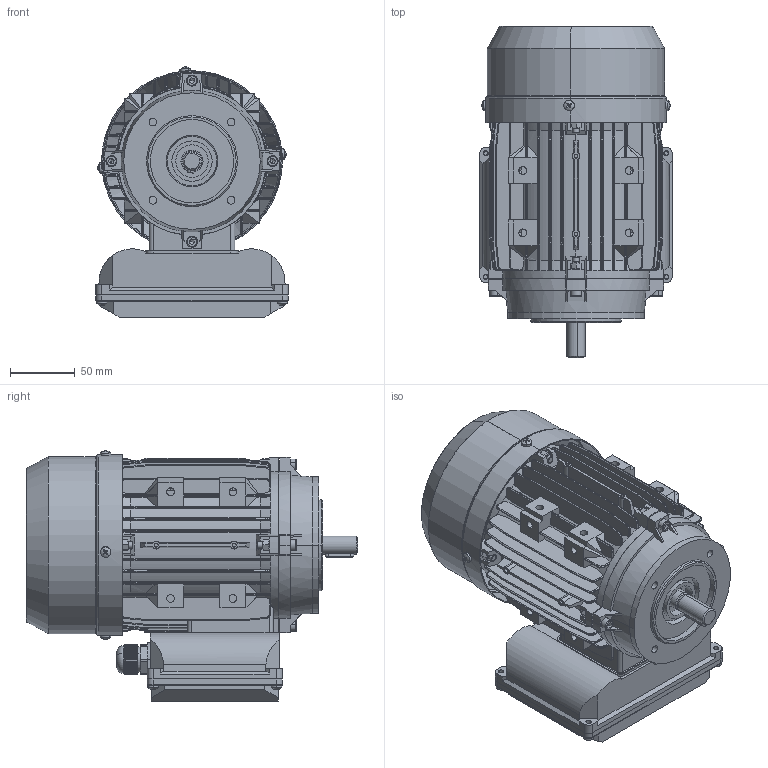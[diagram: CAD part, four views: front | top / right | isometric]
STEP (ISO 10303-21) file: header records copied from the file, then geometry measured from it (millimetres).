
FILE_DESCRIPTION (( 'STEP AP214' ), '1' );
FILE_NAME ('BDM0037.07B214.11.step', '2020-04-23T12:55:04', ( '' ), ( '' ), 'SwSTEP 2.0', 'SolidWorks 2019', '' );
FILE_SCHEMA (( 'AUTOMOTIVE_DESIGN' ));
Length unit declared in the file: millimetre
Products named in the file (1): BDM0037.07B214.11
Bounding box: 148 x 255 x 192.46 mm (x, y, z)
Volume: 728314.3 mm3; surface area: 520230.3 mm2
Topology: 33 solids, 33 shells, 3469 faces, 9128 edges, 5709 vertices
Faces by surface type: plane 1850, cylinder 996, cone 217, torus 146, bspline 142, sphere 118
Entity records: 122712 total; most frequent: CARTESIAN_POINT 38740, ORIENTED_EDGE 18092, DIRECTION 16590, EDGE_CURVE 9046, AXIS2_PLACEMENT_3D 5739, VERTEX_POINT 5709, LINE 5112, VECTOR 5112
